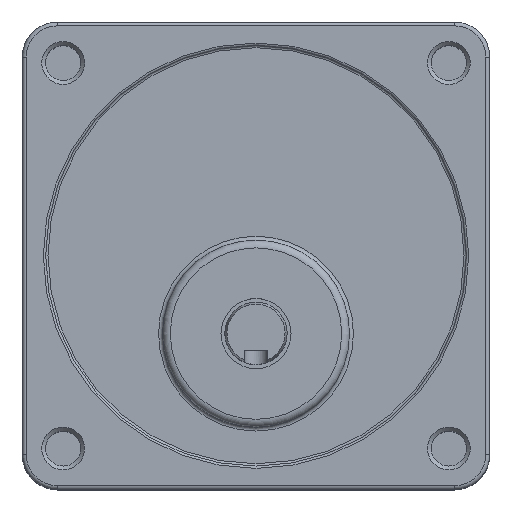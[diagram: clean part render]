
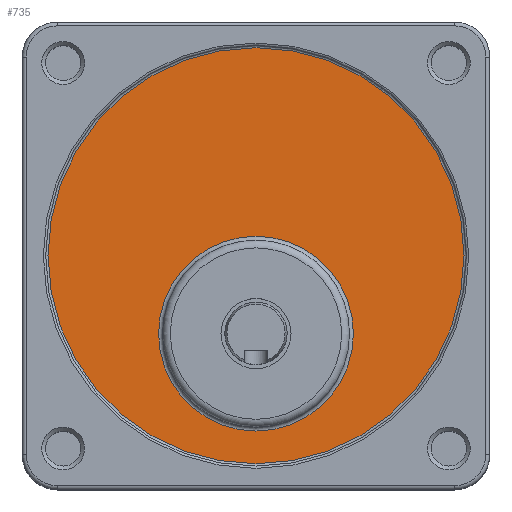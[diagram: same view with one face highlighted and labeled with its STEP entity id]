
A CAD part, top view. The second image highlights one B-rep face of the part: STEP entity #735.
In plain terms, the highlighted planar face has unit normal (0, 0, 1).
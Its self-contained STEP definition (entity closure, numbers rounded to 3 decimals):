
#684=CARTESIAN_POINT('',(42.5,20.0,39.2));
#685=VERTEX_POINT('',#684);
#686=CARTESIAN_POINT('',(30.,20.0,39.2));
#687=DIRECTION('',(0.0,0.0,1.0));
#688=DIRECTION('',(-1.0,0.0,0.0));
#689=AXIS2_PLACEMENT_3D('',#686,#687,#688);
#690=CIRCLE('',#689,12.5);
#691=EDGE_CURVE('',#685,#685,#690,.T.);
#716=CARTESIAN_POINT('',(30.,30.0,39.2));
#717=DIRECTION('',(0.0,0.0,-1.0));
#718=DIRECTION('',(-1.0,0.0,0.0));
#719=AXIS2_PLACEMENT_3D('',#716,#717,#718);
#720=PLANE('',#719);
#721=CARTESIAN_POINT('',(56.699,30.,39.2));
#722=VERTEX_POINT('',#721);
#723=CARTESIAN_POINT('',(30.,30.0,39.2));
#724=DIRECTION('',(0.0,0.0,-1.0));
#725=DIRECTION('',(-1.0,0.0,0.0));
#726=AXIS2_PLACEMENT_3D('',#723,#724,#725);
#727=CIRCLE('',#726,26.699);
#728=EDGE_CURVE('',#722,#722,#727,.T.);
#729=ORIENTED_EDGE('',*,*,#728,.F.);
#730=EDGE_LOOP('',(#729));
#731=FACE_OUTER_BOUND('',#730,.T.);
#732=ORIENTED_EDGE('',*,*,#691,.F.);
#733=EDGE_LOOP('',(#732));
#734=FACE_BOUND('',#733,.T.);
#735=ADVANCED_FACE('',(#731,#734),#720,.F.);
